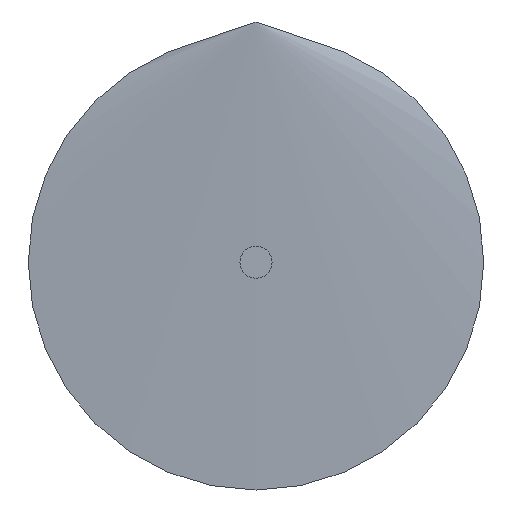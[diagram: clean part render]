
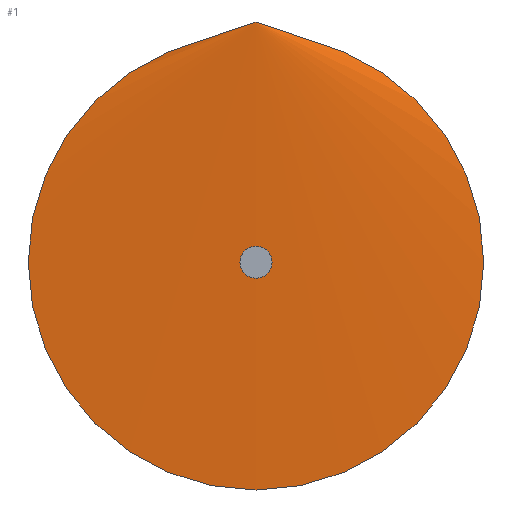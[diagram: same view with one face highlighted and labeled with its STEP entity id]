
A CAD part, left-side view. The second image highlights one B-rep face of the part: STEP entity #1.
In plain terms, the highlighted toroidal (fillet/blend) face has major radius 571.5 mm and minor radius 647.7 mm.
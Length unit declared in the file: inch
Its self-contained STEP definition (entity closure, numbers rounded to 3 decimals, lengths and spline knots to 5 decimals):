
#1 = ADVANCED_FACE ( 'NONE', ( #18 ), #62, .T. ) ;
#16 = DIRECTION ( 'NONE',  ( -1., 0., 0. ) ) ;
#18 = FACE_OUTER_BOUND ( 'NONE', #66, .T. ) ;
#24 = CARTESIAN_POINT ( 'NONE',  ( 0., 0., 0. ) ) ;
#31 = DIRECTION ( 'NONE',  ( 0., 0., 1. ) ) ;
#32 = ORIENTED_EDGE ( 'NONE', *, *, #52, .F. ) ;
#41 = CARTESIAN_POINT ( 'NONE',  ( 0., 0., 3. ) ) ;
#45 = DIRECTION ( 'NONE',  ( 0., 0., 1. ) ) ;
#49 = VERTEX_POINT ( 'NONE', #41 ) ;
#51 = DIRECTION ( 'NONE',  ( -1., 0., 0. ) ) ;
#52 = EDGE_CURVE ( 'NONE', #49, #49, #54, .T. ) ;
#54 = CIRCLE ( 'NONE', #77, 3. ) ;
#62 = TOROIDAL_SURFACE ( 'NONE', #73, -22.5, 25.5 ) ;
#66 = EDGE_LOOP ( 'NONE', ( #32 ) ) ;
#68 = CARTESIAN_POINT ( 'NONE',  ( 0., 0., 0. ) ) ;
#73 = AXIS2_PLACEMENT_3D ( 'NONE', #68, #16, #31 ) ;
#77 = AXIS2_PLACEMENT_3D ( 'NONE', #24, #51, #45 ) ;
